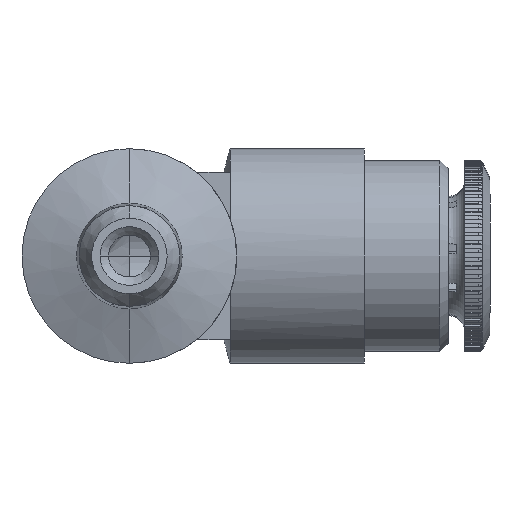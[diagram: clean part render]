
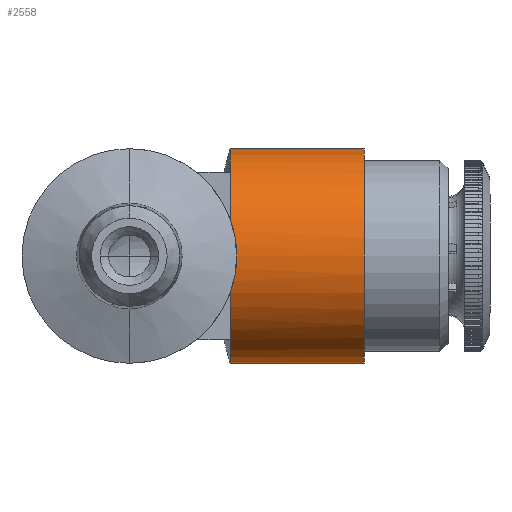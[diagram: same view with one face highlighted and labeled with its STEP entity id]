
A CAD part, front view. The second image highlights one B-rep face of the part: STEP entity #2558.
In plain terms, the highlighted cylindrical face has radius 6.4 mm (diameter 12.8 mm), a partial arc.
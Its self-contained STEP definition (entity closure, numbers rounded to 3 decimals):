
#102 = VERTEX_POINT ( 'NONE', #2743 ) ;
#367 = DIRECTION ( 'NONE',  ( 0., 0., -1. ) ) ;
#861 = VECTOR ( 'NONE', #11003, 1000. ) ;
#949 = VERTEX_POINT ( 'NONE', #8555 ) ;
#1282 = VERTEX_POINT ( 'NONE', #4323 ) ;
#1284 = DIRECTION ( 'NONE',  ( -1., 0., 0. ) ) ;
#1683 = DIRECTION ( 'NONE',  ( 0., 0., -1. ) ) ;
#2082 = EDGE_CURVE ( 'NONE', #18438, #6325, #15666, .T. ) ;
#2199 = CARTESIAN_POINT ( 'NONE',  ( -13.484, 0., 0. ) ) ;
#2260 = EDGE_CURVE ( 'NONE', #11938, #949, #12235, .T. ) ;
#2558 = ADVANCED_FACE ( 'NONE', ( #7800 ), #14573, .T. ) ;
#2611 = VERTEX_POINT ( 'NONE', #20251 ) ;
#2743 = CARTESIAN_POINT ( 'NONE',  ( -13.491, -6.004, -2.217 ) ) ;
#2850 = ORIENTED_EDGE ( 'NONE', *, *, #2082, .F. ) ;
#2992 = CARTESIAN_POINT ( 'NONE',  ( -13.491, -6.004, 2.217 ) ) ;
#3213 = EDGE_CURVE ( 'NONE', #11938, #6325, #8259, .T. ) ;
#3278 = ORIENTED_EDGE ( 'NONE', *, *, #3213, .T. ) ;
#3376 = EDGE_CURVE ( 'NONE', #14265, #21026, #19730, .T. ) ;
#3611 = EDGE_LOOP ( 'NONE', ( #16266, #3278, #2850, #20926, #10080, #14071, #12962, #20813, #11109, #15770, #5325, #7666, #16644, #10219 ) ) ;
#3619 = CARTESIAN_POINT ( 'NONE',  ( -13.484, -6.004, -2.217 ) ) ;
#3724 = CARTESIAN_POINT ( 'NONE',  ( -12.964, -6.536, 0.765 ) ) ;
#3871 = DIRECTION ( 'NONE',  ( 0., 0., -1. ) ) ;
#3910 = CIRCLE ( 'NONE', #10111, 6.4 ) ;
#4323 = CARTESIAN_POINT ( 'NONE',  ( -5.5, 0., -6.4 ) ) ;
#4546 = CARTESIAN_POINT ( 'NONE',  ( 0., -3.995, -5. ) ) ;
#5103 = DIRECTION ( 'NONE',  ( 1., 0., 0. ) ) ;
#5148 = CARTESIAN_POINT ( 'NONE',  ( 0., 0., 6.4 ) ) ;
#5325 = ORIENTED_EDGE ( 'NONE', *, *, #12534, .T. ) ;
#5375 = CIRCLE ( 'NONE', #11855, 6.4 ) ;
#5592 = AXIS2_PLACEMENT_3D ( 'NONE', #7553, #19219, #9213 ) ;
#5811 = CARTESIAN_POINT ( 'NONE',  ( -13.491, 0., 0. ) ) ;
#6026 = AXIS2_PLACEMENT_3D ( 'NONE', #20355, #10393, #367 ) ;
#6216 = AXIS2_PLACEMENT_3D ( 'NONE', #8377, #10060, #16786 ) ;
#6237 = DIRECTION ( 'NONE',  ( -1., 0., 0. ) ) ;
#6240 = CIRCLE ( 'NONE', #20803, 6.4 ) ;
#6325 = VERTEX_POINT ( 'NONE', #9019 ) ;
#6729 = VERTEX_POINT ( 'NONE', #20417 ) ;
#7016 = AXIS2_PLACEMENT_3D ( 'NONE', #5811, #17480, #7475 ) ;
#7475 = DIRECTION ( 'NONE',  ( 0., 0., -1. ) ) ;
#7553 = CARTESIAN_POINT ( 'NONE',  ( -13.491, 0., 0. ) ) ;
#7666 = ORIENTED_EDGE ( 'NONE', *, *, #3376, .T. ) ;
#7709 = CARTESIAN_POINT ( 'NONE',  ( -13.491, 0., 6.4 ) ) ;
#7800 = FACE_OUTER_BOUND ( 'NONE', #3611, .T. ) ;
#7805 = VERTEX_POINT ( 'NONE', #2992 ) ;
#8259 = CIRCLE ( 'NONE', #6026, 6.4 ) ;
#8377 = CARTESIAN_POINT ( 'NONE',  ( 0., 0., 0. ) ) ;
#8555 = CARTESIAN_POINT ( 'NONE',  ( -5.5, 0., 6.4 ) ) ;
#9019 = CARTESIAN_POINT ( 'NONE',  ( -13.491, -3.995, 5. ) ) ;
#9163 = CARTESIAN_POINT ( 'NONE',  ( 0., -6.004, 2.217 ) ) ;
#9213 = DIRECTION ( 'NONE',  ( 0., 0., -1. ) ) ;
#9472 = DIRECTION ( 'NONE',  ( -1., 0., 0. ) ) ;
#9593 = LINE ( 'NONE', #12889, #14009 ) ;
#10060 = DIRECTION ( 'NONE',  ( 1., 0., 0. ) ) ;
#10080 = ORIENTED_EDGE ( 'NONE', *, *, #19268, .F. ) ;
#10111 = AXIS2_PLACEMENT_3D ( 'NONE', #11263, #1284, #12946 ) ;
#10219 = ORIENTED_EDGE ( 'NONE', *, *, #11450, .T. ) ;
#10393 = DIRECTION ( 'NONE',  ( 1., 0., 0. ) ) ;
#10755 = DIRECTION ( 'NONE',  ( -1., 0., 0. ) ) ;
#10901 = CARTESIAN_POINT ( 'NONE',  ( 0., -3.995, 5. ) ) ;
#11003 = DIRECTION ( 'NONE',  ( 1., 0., 0. ) ) ;
#11109 = ORIENTED_EDGE ( 'NONE', *, *, #14801, .F. ) ;
#11263 = CARTESIAN_POINT ( 'NONE',  ( -13.484, 0., 0. ) ) ;
#11450 = EDGE_CURVE ( 'NONE', #1282, #949, #5375, .T. ) ;
#11678 = DIRECTION ( 'NONE',  ( 1., 0., 0. ) ) ;
#11802 = CARTESIAN_POINT ( 'NONE',  ( -13.484, -6.004, 2.217 ) ) ;
#11855 = AXIS2_PLACEMENT_3D ( 'NONE', #16212, #6237, #17898 ) ;
#11938 = VERTEX_POINT ( 'NONE', #7709 ) ;
#12022 = CARTESIAN_POINT ( 'NONE',  ( -13.491, -6.009, -2.202 ) ) ;
#12235 = LINE ( 'NONE', #5148, #21073 ) ;
#12534 = EDGE_CURVE ( 'NONE', #6729, #14265, #15957, .T. ) ;
#12636 = CARTESIAN_POINT ( 'NONE',  ( -13.491, -6.009, 2.202 ) ) ;
#12889 = CARTESIAN_POINT ( 'NONE',  ( 0., -6.004, -2.217 ) ) ;
#12946 = DIRECTION ( 'NONE',  ( 0., 0., -1. ) ) ;
#12962 = ORIENTED_EDGE ( 'NONE', *, *, #16087, .F. ) ;
#13024 =( BOUNDED_CURVE ( )  B_SPLINE_CURVE ( 3, ( #12022, #13702, #3724, #15403 ),
 .UNSPECIFIED., .F., .T. ) 
 B_SPLINE_CURVE_WITH_KNOTS ( ( 4, 4 ),
 ( 5.932, 6.634 ),
 .UNSPECIFIED. ) 
 CURVE ( )  GEOMETRIC_REPRESENTATION_ITEM ( )  RATIONAL_B_SPLINE_CURVE ( ( 1., 0.959, 0.959, 1. ) ) 
 REPRESENTATION_ITEM ( '' )  );
#13663 = EDGE_CURVE ( 'NONE', #6729, #19651, #3910, .T. ) ;
#13702 = CARTESIAN_POINT ( 'NONE',  ( -12.964, -6.536, -0.765 ) ) ;
#13844 = DIRECTION ( 'NONE',  ( -1., 0., 0. ) ) ;
#14009 = VECTOR ( 'NONE', #9472, 1000. ) ;
#14071 = ORIENTED_EDGE ( 'NONE', *, *, #18173, .T. ) ;
#14170 = LINE ( 'NONE', #20947, #861 ) ;
#14259 = CIRCLE ( 'NONE', #7016, 6.4 ) ;
#14265 = VERTEX_POINT ( 'NONE', #19771 ) ;
#14573 = CYLINDRICAL_SURFACE ( 'NONE', #6216, 6.4 ) ;
#14801 = EDGE_CURVE ( 'NONE', #19651, #102, #9593, .T. ) ;
#14968 = CARTESIAN_POINT ( 'NONE',  ( -13.484, -3.995, 5. ) ) ;
#15317 = VERTEX_POINT ( 'NONE', #12636 ) ;
#15403 = CARTESIAN_POINT ( 'NONE',  ( -13.491, -6.009, 2.202 ) ) ;
#15419 = VECTOR ( 'NONE', #10755, 1000. ) ;
#15522 = LINE ( 'NONE', #9163, #17623 ) ;
#15666 = LINE ( 'NONE', #10901, #15419 ) ;
#15770 = ORIENTED_EDGE ( 'NONE', *, *, #13663, .F. ) ;
#15925 = EDGE_CURVE ( 'NONE', #2611, #102, #18609, .T. ) ;
#15957 = LINE ( 'NONE', #4546, #17611 ) ;
#16087 = EDGE_CURVE ( 'NONE', #2611, #15317, #13024, .T. ) ;
#16212 = CARTESIAN_POINT ( 'NONE',  ( -5.5, 0., 0. ) ) ;
#16234 = DIRECTION ( 'NONE',  ( -1., 0., 0. ) ) ;
#16266 = ORIENTED_EDGE ( 'NONE', *, *, #2260, .F. ) ;
#16611 = AXIS2_PLACEMENT_3D ( 'NONE', #21614, #11678, #1683 ) ;
#16644 = ORIENTED_EDGE ( 'NONE', *, *, #21611, .T. ) ;
#16786 = DIRECTION ( 'NONE',  ( 0., 0., -1. ) ) ;
#17480 = DIRECTION ( 'NONE',  ( 1., 0., 0. ) ) ;
#17611 = VECTOR ( 'NONE', #16234, 1000. ) ;
#17617 = VERTEX_POINT ( 'NONE', #11802 ) ;
#17623 = VECTOR ( 'NONE', #20789, 1000. ) ;
#17898 = DIRECTION ( 'NONE',  ( 0., 0., -1. ) ) ;
#18173 = EDGE_CURVE ( 'NONE', #7805, #15317, #14259, .T. ) ;
#18438 = VERTEX_POINT ( 'NONE', #14968 ) ;
#18609 = CIRCLE ( 'NONE', #16611, 6.4 ) ;
#19219 = DIRECTION ( 'NONE',  ( 1., 0., 0. ) ) ;
#19268 = EDGE_CURVE ( 'NONE', #7805, #17617, #15522, .T. ) ;
#19651 = VERTEX_POINT ( 'NONE', #3619 ) ;
#19730 = CIRCLE ( 'NONE', #5592, 6.4 ) ;
#19771 = CARTESIAN_POINT ( 'NONE',  ( -13.491, -3.995, -5. ) ) ;
#20251 = CARTESIAN_POINT ( 'NONE',  ( -13.491, -6.009, -2.202 ) ) ;
#20355 = CARTESIAN_POINT ( 'NONE',  ( -13.491, 0., 0. ) ) ;
#20417 = CARTESIAN_POINT ( 'NONE',  ( -13.484, -3.995, -5. ) ) ;
#20612 = CARTESIAN_POINT ( 'NONE',  ( -13.491, 0., -6.4 ) ) ;
#20789 = DIRECTION ( 'NONE',  ( 1., 0., 0. ) ) ;
#20803 = AXIS2_PLACEMENT_3D ( 'NONE', #2199, #13844, #3871 ) ;
#20813 = ORIENTED_EDGE ( 'NONE', *, *, #15925, .T. ) ;
#20926 = ORIENTED_EDGE ( 'NONE', *, *, #21455, .F. ) ;
#20947 = CARTESIAN_POINT ( 'NONE',  ( 0., 0., -6.4 ) ) ;
#21026 = VERTEX_POINT ( 'NONE', #20612 ) ;
#21073 = VECTOR ( 'NONE', #5103, 1000. ) ;
#21455 = EDGE_CURVE ( 'NONE', #17617, #18438, #6240, .T. ) ;
#21611 = EDGE_CURVE ( 'NONE', #21026, #1282, #14170, .T. ) ;
#21614 = CARTESIAN_POINT ( 'NONE',  ( -13.491, 0., 0. ) ) ;
